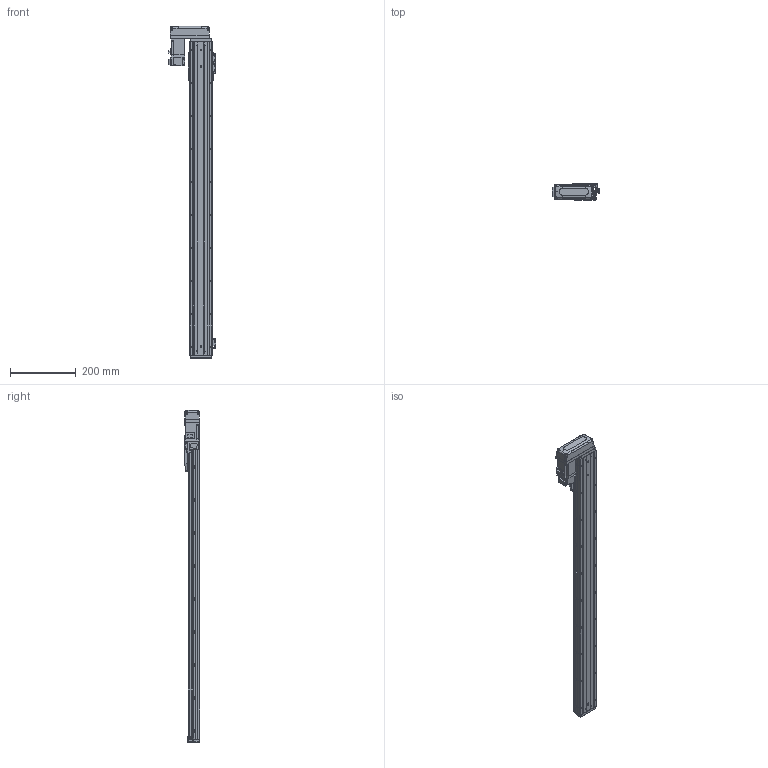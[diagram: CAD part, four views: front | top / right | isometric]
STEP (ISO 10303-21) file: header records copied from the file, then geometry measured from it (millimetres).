
FILE_DESCRIPTION (( 'STEP AP203' ), '1' );
FILE_NAME ('CTHA60-800-BR-M10-C4L.step', '2022-03-19T06:23:27', ( '微软用户' ), ( '微软中国' ), 'SwSTEP 2.0', 'SolidWorks 2020', '' );
FILE_SCHEMA (( 'CONFIG_CONTROL_DESIGN' ));
Length unit declared in the file: millimetre
Products named in the file (18): CTHA60-017; CTHA60-006-1; CTHA60-021; CTHA60-033; CTHA60-001_950; GBT 70.1-M4×16; GBT 70.3-M3℅6; CTHA60-800-BR-M10-C4L; CTHA60-004; GBT77-2000 M3×3; CTHA60-016; CTHA60-005; GBT 70.1-M3℅6; HG-KR13（三菱）; GB¨uT 70.2-M3¡Á6_M3¡Á6; CTHA60-002; EE_SX911P_R; CTHA60-031
Assembly tree (54 placements, depth 2):
  CTHA60-800-BR-M10-C4L
    CTHA60-001_950
    CTHA60-004
    CTHA60-005
    GB¨uT 70.2-M3¡Á6_M3¡Á6  x10
    EE_SX911P_R  x3
    CTHA60-017  x3
    CTHA60-021  x2
    GBT 70.1-M4×16  x10
    GBT77-2000 M3×3  x6
    GBT 70.1-M3℅6  x6
    GBT 70.3-M3℅6  x4
    CTHA60-016  x2
    HG-KR13（三菱）
    CTHA60-002
    CTHA60-031
    CTHA60-006-1
    CTHA60-033
Bounding box: 143.62 x 48 x 1007 mm (x, y, z)
Volume: 1683073.4 mm3; surface area: 496404.1 mm2
Topology: 56 solids, 56 shells, 2574 faces, 6205 edges, 3829 vertices
Faces by surface type: plane 1485, cylinder 595, cone 346, torus 92, bspline 32, sphere 24
Entity records: 46949 total; most frequent: CARTESIAN_POINT 9034, DIRECTION 7276, ORIENTED_EDGE 7218, EDGE_CURVE 3609, VECTOR 2568, LINE 2568, AXIS2_PLACEMENT_3D 2354, VERTEX_POINT 2288
